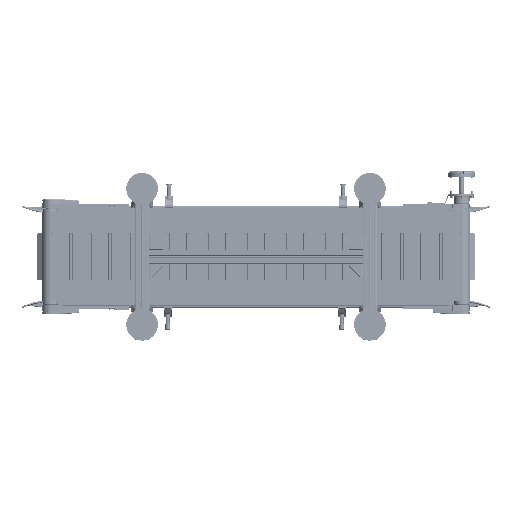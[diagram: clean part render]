
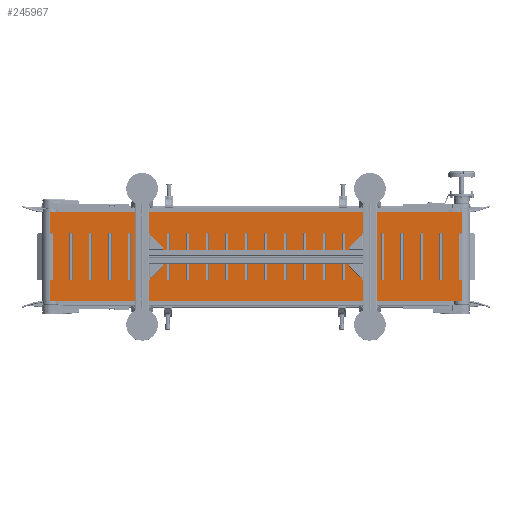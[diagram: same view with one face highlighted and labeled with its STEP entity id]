
A CAD part, front view. The second image highlights one B-rep face of the part: STEP entity #245967.
In plain terms, the highlighted planar face has unit normal (0, -1, 0).
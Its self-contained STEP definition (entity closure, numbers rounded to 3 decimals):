
#487 = LINE ( 'NONE', #229702, #97649 ) ;
#25570 = CARTESIAN_POINT ( 'NONE',  ( -650., -27., -140. ) ) ;
#32399 = CARTESIAN_POINT ( 'NONE',  ( 650., -27., -140. ) ) ;
#40735 = EDGE_CURVE ( 'NONE', #65320, #190808, #487, .T. ) ;
#50249 = DIRECTION ( 'NONE',  ( 0., 0., -1. ) ) ;
#52713 = DIRECTION ( 'NONE',  ( 0., 1., 0. ) ) ;
#65320 = VERTEX_POINT ( 'NONE', #215232 ) ;
#67106 = CARTESIAN_POINT ( 'NONE',  ( -650., -27., -140. ) ) ;
#71864 = EDGE_CURVE ( 'NONE', #65320, #217657, #110360, .T. ) ;
#72683 = ORIENTED_EDGE ( 'NONE', *, *, #71864, .T. ) ;
#75594 = DIRECTION ( 'NONE',  ( 1., 0., 0. ) ) ;
#78609 = EDGE_LOOP ( 'NONE', ( #181513, #218095, #88560, #72683 ) ) ;
#88560 = ORIENTED_EDGE ( 'NONE', *, *, #40735, .F. ) ;
#97649 = VECTOR ( 'NONE', #75594, 1000. ) ;
#100534 = EDGE_CURVE ( 'NONE', #217657, #218654, #239971, .T. ) ;
#101132 = CARTESIAN_POINT ( 'NONE',  ( 650., -27., 140. ) ) ;
#110360 = LINE ( 'NONE', #149209, #229913 ) ;
#131417 = VECTOR ( 'NONE', #215320, 1000. ) ;
#132866 = PLANE ( 'NONE',  #134918 ) ;
#134918 = AXIS2_PLACEMENT_3D ( 'NONE', #224347, #52713, #205556 ) ;
#149209 = CARTESIAN_POINT ( 'NONE',  ( -650., -27., 140. ) ) ;
#155732 = EDGE_CURVE ( 'NONE', #190808, #218654, #177676, .T. ) ;
#166744 = FACE_OUTER_BOUND ( 'NONE', #78609, .T. ) ;
#174928 = VECTOR ( 'NONE', #181103, 1000. ) ;
#177676 = LINE ( 'NONE', #237772, #131417 ) ;
#181103 = DIRECTION ( 'NONE',  ( 1., 0., 0. ) ) ;
#181513 = ORIENTED_EDGE ( 'NONE', *, *, #100534, .T. ) ;
#190808 = VERTEX_POINT ( 'NONE', #101132 ) ;
#205556 = DIRECTION ( 'NONE',  ( 0., 0., 1. ) ) ;
#215232 = CARTESIAN_POINT ( 'NONE',  ( -650., -27., 140. ) ) ;
#215320 = DIRECTION ( 'NONE',  ( 0., 0., -1. ) ) ;
#217657 = VERTEX_POINT ( 'NONE', #25570 ) ;
#218095 = ORIENTED_EDGE ( 'NONE', *, *, #155732, .F. ) ;
#218654 = VERTEX_POINT ( 'NONE', #32399 ) ;
#224347 = CARTESIAN_POINT ( 'NONE',  ( -650., -27., 140. ) ) ;
#229702 = CARTESIAN_POINT ( 'NONE',  ( -650., -27., 140. ) ) ;
#229913 = VECTOR ( 'NONE', #50249, 1000. ) ;
#237772 = CARTESIAN_POINT ( 'NONE',  ( 650., -27., 140. ) ) ;
#239971 = LINE ( 'NONE', #67106, #174928 ) ;
#245967 = ADVANCED_FACE ( 'NONE', ( #166744 ), #132866, .F. ) ;
